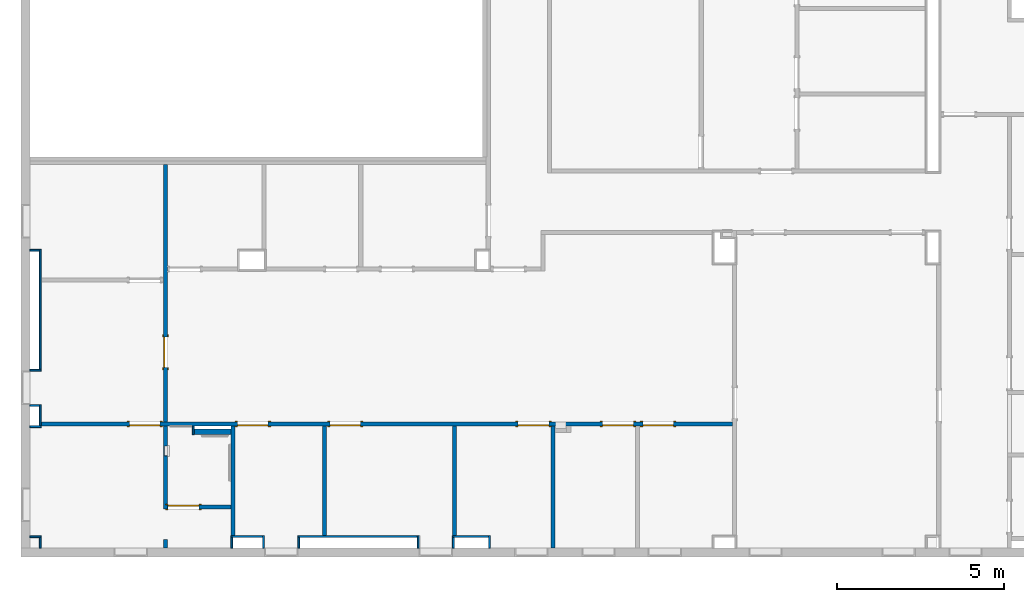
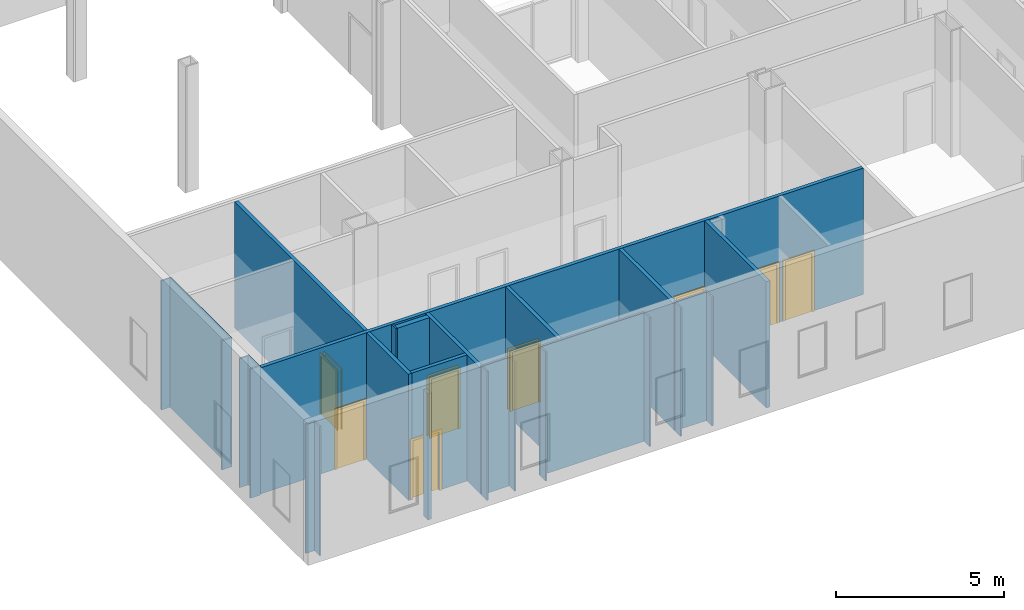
# One storey, part 6 of 47: 28 walls, 8 doors, 9 openings.
"""IFC2X3 building model written with IfcOpenShell, lengths in metres."""

from ifc_helpers import new_model, entity, si_unit, converted_unit, frame, frame_2d, origin, origin_2d_with_axis, place, context, project, spatial, polyline, rectangle, outline, extrude, source, transform, mapped, material, layer, layer_set, layer_usage, type_object, type_shapes, element, fill, save


model = new_model("IFC2X3")

# Units and contexts
model_context = context("Model", 3, precision=1e-09, world=origin())
plan_context = context("Plan", 3, precision=1e-09, world=origin())
ifc_project = project(units=[si_unit("LENGTHUNIT", "METRE"), si_unit("AREAUNIT", "SQUARE_METRE"), si_unit("VOLUMEUNIT", "CUBIC_METRE"), converted_unit("PLANEANGLEUNIT", "DEGREE", entity("IfcRatioMeasure", 0.01745329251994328), si_unit("PLANEANGLEUNIT", "RADIAN"), dimensions=[0, 0, 0, 0, 0, 0, 0]), si_unit("TIMEUNIT", "SECOND")], contexts=[model_context, plan_context])

# Site, building, storey
site_placement = place(None, origin())
site = spatial("IfcSite", under=ifc_project, at=site_placement, Name="Default", CompositionType="ELEMENT")
building_placement = place(site_placement, origin())
building = spatial("IfcBuilding", under=site, at=building_placement, CompositionType="ELEMENT")
storey_placement = place(building_placement, frame((0.0, 0.0, 4.570000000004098)))
storey = spatial("IfcBuildingStorey", under=building, at=storey_placement, Name="Second Floor", CompositionType="ELEMENT", Elevation=4.570000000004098)

# Wall, openings, doors
ifc_material_1 = material(Name="Plasterboard")
ifc_layer_1 = layer(ifc_material_1, 0.016)
ifc_material_2 = material(Name="Metal - Stud Layer")
ifc_layer_2 = layer(ifc_material_2, 0.092)
ifc_layer_3 = layer(ifc_material_1, 0.016)
ifc_layer_set_1 = layer_set([ifc_layer_1, ifc_layer_2, ifc_layer_3], Name="Basic Wall:Interior - Partition (92mm Stud)")
ifc_layer_usage_1 = layer_usage(ifc_layer_set_1, "AXIS2", "NEGATIVE", 0.062)
wall_1_placement = place(storey_placement, frame((-46.77000000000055, 13.64243871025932, 0.0)))
wall_1 = element("IfcWallStandardCase", 1, at=wall_1_placement, inside=storey, material=ifc_layer_usage_1, Name="Basic Wall:Interior - Partition (92mm Stud)", ObjectType="Basic Wall:Interior - Partition (92mm Stud)", context=model_context, shape_type="SweptSolid", body=[
    extrude(rectangle(XDim=20.70599999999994, YDim=0.1240000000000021, at=frame_2d((10.35299999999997, 0.0), x_axis=(-1.0, 0.0))), origin(), (0.0, 0.0, 1.0), 4.577999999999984),
])
opening_1_placement = place(wall_1_placement, frame((3.559999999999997, 0.06199999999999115, 0.0)))
opening_1 = element("IfcOpeningElement", 2, at=opening_1_placement, cuts=wall_1, Name="M_Single-Flush:0915 x 2134mm:0915 x 2134mm:1", ObjectType="Opening", context=model_context, shape_type="SweptSolid", body=[
    extrude(rectangle(XDim=0.9149999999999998, YDim=2.134, at=frame_2d((1.067, 0.4574999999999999), x_axis=(0.0, -1.0))), frame((0.0, 0.0, 0.0), z_axis=(0.0, -1.0, 0.0), x_axis=(0.0, 0.0, 1.0)), (0.0, 0.0, 1.0), 0.124),
])
opening_2_placement = place(wall_1_placement, frame((6.798999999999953, 0.06199999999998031, 0.0)))
opening_2 = element("IfcOpeningElement", 3, at=opening_2_placement, cuts=wall_1, Name="M_Single-Flush:0915 x 2134mm:0915 x 2134mm:1", ObjectType="Opening", context=model_context, shape_type="SweptSolid", body=[
    extrude(rectangle(XDim=0.9149999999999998, YDim=2.134, at=frame_2d((1.067, 0.4575), x_axis=(0.0, 1.0))), frame((0.0, 0.0, 0.0), z_axis=(0.0, -1.0, 0.0), x_axis=(0.0, 0.0, 1.0)), (0.0, 0.0, 1.0), 0.124),
])
opening_3_placement = place(wall_1_placement, frame((9.564999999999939, 0.06199999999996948, 0.0)))
opening_3 = element("IfcOpeningElement", 4, at=opening_3_placement, cuts=wall_1, Name="M_Single-Flush:0915 x 2134mm:0915 x 2134mm:1", ObjectType="Opening", context=model_context, shape_type="SweptSolid", body=[
    extrude(rectangle(XDim=0.9149999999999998, YDim=2.134, at=frame_2d((1.067, 0.4575), x_axis=(0.0, 1.0))), frame((0.0, 0.0, 0.0), z_axis=(0.0, -1.0, 0.0), x_axis=(0.0, 0.0, 1.0)), (0.0, 0.0, 1.0), 0.124),
])
opening_4_placement = place(wall_1_placement, frame((15.20100000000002, 0.06199999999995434, 0.0)))
opening_4 = element("IfcOpeningElement", 5, at=opening_4_placement, cuts=wall_1, Name="M_Single-Flush:0915 x 2134mm:0915 x 2134mm:1", ObjectType="Opening", context=model_context, shape_type="SweptSolid", body=[
    extrude(rectangle(XDim=0.9149999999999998, YDim=2.134, at=frame_2d((1.067, 0.4574999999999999), x_axis=(0.0, -1.0))), frame((0.0, 0.0, 0.0), z_axis=(0.0, -1.0, 0.0), x_axis=(0.0, 0.0, 1.0)), (0.0, 0.0, 1.0), 0.124),
])
opening_5_placement = place(wall_1_placement, frame((17.73100000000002, 0.06199999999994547, 0.0)))
opening_5 = element("IfcOpeningElement", 6, at=opening_5_placement, cuts=wall_1, Name="M_Single-Flush:0915 x 2134mm:0915 x 2134mm:1", ObjectType="Opening", context=model_context, shape_type="SweptSolid", body=[
    extrude(rectangle(XDim=0.9149999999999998, YDim=2.134, at=frame_2d((1.067, 0.4574999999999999), x_axis=(0.0, -1.0))), frame((0.0, 0.0, 0.0), z_axis=(0.0, -1.0, 0.0), x_axis=(0.0, 0.0, 1.0)), (0.0, 0.0, 1.0), 0.124),
])
opening_6_placement = place(wall_1_placement, frame((18.93000000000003, 0.06199999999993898, 0.0)))
opening_6 = element("IfcOpeningElement", 7, at=opening_6_placement, cuts=wall_1, Name="M_Single-Flush:0915 x 2134mm:0915 x 2134mm:1", ObjectType="Opening", context=model_context, shape_type="SweptSolid", body=[
    extrude(rectangle(XDim=0.9149999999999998, YDim=2.134, at=frame_2d((1.067, 0.4575), x_axis=(0.0, 1.0))), frame((0.0, 0.0, 0.0), z_axis=(0.0, -1.0, 0.0), x_axis=(0.0, 0.0, 1.0)), (0.0, 0.0, 1.0), 0.124),
])
door_style_1 = type_object("IfcDoorStyle", Name="0915 x 2134mm", ConstructionType="NOTDEFINED", OperationType="SINGLE_SWING_RIGHT", ParameterTakesPrecedence=False, Sizeable=False)
shared_shape_1 = source(origin(), model_context, "Body", "SweptSolid", [
    extrude(outline(polyline([(-0.5335, -1.123999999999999), (0.5334999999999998, -1.123999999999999), (0.5334999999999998, 1.086), (0.4574999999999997, 1.086), (0.4574999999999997, -1.048000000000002), (-0.4574999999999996, -1.048000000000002), (-0.4574999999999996, 1.086), (-0.5335, 1.086), (-0.5335, -1.123999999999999)])), frame((0.4575000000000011, 0.1239999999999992, 1.086), z_axis=(0.0, 1.0, 0.0), x_axis=(1.0, 0.0, 0.0)), (0.0, 0.0, 1.0), 0.02499999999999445),
    extrude(outline(polyline([(-1.123999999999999, -0.5334999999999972), (1.085999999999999, -0.5334999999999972), (1.085999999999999, -0.4575000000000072), (-1.048, -0.4575000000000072), (-1.048, 0.4575000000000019), (1.085999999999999, 0.4575000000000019), (1.085999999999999, 0.5335000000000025), (-1.123999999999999, 0.5335000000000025), (-1.123999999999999, -0.5334999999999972)])), frame((0.4575000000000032, -0.02500000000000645, 1.085999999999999), z_axis=(0.0, 1.0, 0.0), x_axis=(0.0, 0.0, -1.0)), (0.0, 0.0, 1.0), 0.02500000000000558),
    extrude(rectangle(XDim=0.051, YDim=0.9149999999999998, at=origin_2d_with_axis()), frame((0.4575000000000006, 0.09849999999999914, 0.0), z_axis=(0.0, 0.0, 1.0), x_axis=(0.0, 1.0, 0.0)), (0.0, 0.0, 1.0), 2.133999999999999),
])
type_shapes(door_style_1, [shared_shape_1])
door_1_placement = place(opening_2_placement, frame((0.0, 0.0, 0.0), z_axis=(0.0, 0.0, 1.0), x_axis=(-1.0, 0.0, 0.0)))
door_1 = element("IfcDoor", 8, at=door_1_placement, inside=storey, type_object=door_style_1, Name="M_Single-Flush:0915 x 2134mm:0915 x 2134mm", ObjectType="0915 x 2134mm", OverallHeight=2.134, OverallWidth=0.9149999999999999, context=model_context, shape_type="MappedRepresentation", body=[
    mapped(shared_shape_1, transform((0.0, 0.0, 0.0), scale=1.0)),
])
fill(opening_2, door_1)
door_2_placement = place(opening_3_placement, frame((0.0, 0.0, 0.0), z_axis=(0.0, 0.0, 1.0), x_axis=(-1.0, 0.0, 0.0)))
door_2 = element("IfcDoor", 9, at=door_2_placement, inside=storey, type_object=door_style_1, Name="M_Single-Flush:0915 x 2134mm:0915 x 2134mm", ObjectType="0915 x 2134mm", OverallHeight=2.134, OverallWidth=0.9149999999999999, context=model_context, shape_type="MappedRepresentation", body=[
    mapped(shared_shape_1, transform((0.0, 0.0, 0.0), scale=1.0)),
])
fill(opening_3, door_2)
door_3_placement = place(opening_6_placement, frame((0.0, 0.0, 0.0), z_axis=(0.0, 0.0, 1.0), x_axis=(-1.0, 0.0, 0.0)))
door_3 = element("IfcDoor", 10, at=door_3_placement, inside=storey, type_object=door_style_1, Name="M_Single-Flush:0915 x 2134mm:0915 x 2134mm", ObjectType="0915 x 2134mm", OverallHeight=2.134, OverallWidth=0.9149999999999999, context=model_context, shape_type="MappedRepresentation", body=[
    mapped(shared_shape_1, transform((0.0, 0.0, 0.0), scale=1.0)),
])
fill(opening_6, door_3)
door_style_2 = type_object("IfcDoorStyle", Name="0915 x 2134mm", ConstructionType="NOTDEFINED", OperationType="SINGLE_SWING_LEFT", ParameterTakesPrecedence=False, Sizeable=False)
shared_shape_2 = source(origin(), model_context, "Body", "SweptSolid", [
    extrude(outline(polyline([(-0.5335, -1.123999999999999), (0.5334999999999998, -1.123999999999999), (0.5334999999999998, 1.086), (0.4574999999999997, 1.086), (0.4574999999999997, -1.048000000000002), (-0.4574999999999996, -1.048000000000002), (-0.4574999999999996, 1.086), (-0.5335, 1.086), (-0.5335, -1.123999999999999)])), frame((0.4575000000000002, 0.1489999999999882, 1.086), z_axis=(0.0, -1.0, 0.0), x_axis=(-1.0, 0.0, 0.0)), (0.0, 0.0, 1.0), 0.02499999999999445),
    extrude(outline(polyline([(-1.123999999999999, -0.5334999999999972), (1.085999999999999, -0.5334999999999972), (1.085999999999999, -0.4575000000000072), (-1.048, -0.4575000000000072), (-1.048, 0.4575000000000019), (1.085999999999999, 0.4575000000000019), (1.085999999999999, 0.5335000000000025), (-1.123999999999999, 0.5335000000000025), (-1.123999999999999, -0.5334999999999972)])), frame((0.4574999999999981, 0.0, 1.085999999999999), z_axis=(0.0, -1.0, 0.0), x_axis=(0.0, 0.0, -1.0)), (0.0, 0.0, 1.0), 0.02500000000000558),
    extrude(rectangle(XDim=0.9149999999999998, YDim=0.051, at=origin_2d_with_axis()), frame((0.4575000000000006, 0.09849999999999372, 0.0)), (0.0, 0.0, 1.0), 2.133999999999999),
])
type_shapes(door_style_2, [shared_shape_2])
door_4_placement = place(opening_1_placement, frame((0.0, 0.0, 0.0), z_axis=(0.0, 0.0, 1.0), x_axis=(-1.0, 0.0, 0.0)))
door_4 = element("IfcDoor", 11, at=door_4_placement, inside=storey, type_object=door_style_2, Name="M_Single-Flush:0915 x 2134mm:0915 x 2134mm", ObjectType="0915 x 2134mm", OverallHeight=2.134, OverallWidth=0.9149999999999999, context=model_context, shape_type="MappedRepresentation", body=[
    mapped(shared_shape_2, transform((0.0, 0.0, 0.0), scale=1.0)),
])
fill(opening_1, door_4)
door_5_placement = place(opening_4_placement, frame((0.0, 0.0, 0.0), z_axis=(0.0, 0.0, 1.0), x_axis=(-1.0, 0.0, 0.0)))
door_5 = element("IfcDoor", 12, at=door_5_placement, inside=storey, type_object=door_style_2, Name="M_Single-Flush:0915 x 2134mm:0915 x 2134mm", ObjectType="0915 x 2134mm", OverallHeight=2.134, OverallWidth=0.9149999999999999, context=model_context, shape_type="MappedRepresentation", body=[
    mapped(shared_shape_2, transform((0.0, 0.0, 0.0), scale=1.0)),
])
fill(opening_4, door_5)
door_6_placement = place(opening_5_placement, frame((0.0, 0.0, 0.0), z_axis=(0.0, 0.0, 1.0), x_axis=(-1.0, 0.0, 0.0)))
door_6 = element("IfcDoor", 13, at=door_6_placement, inside=storey, type_object=door_style_2, Name="M_Single-Flush:0915 x 2134mm:0915 x 2134mm", ObjectType="0915 x 2134mm", OverallHeight=2.134, OverallWidth=0.9149999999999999, context=model_context, shape_type="MappedRepresentation", body=[
    mapped(shared_shape_2, transform((0.0, 0.0, 0.0), scale=1.0)),
])
fill(opening_5, door_6)

# Walls
ifc_layer_usage_2 = layer_usage(ifc_layer_set_1, "AXIS2", "NEGATIVE", 0.062)
wall_2_placement = place(storey_placement, frame((-31.44700000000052, 13.58043871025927, 0.0), z_axis=(0.0, 0.0, 1.0), x_axis=(0.0, -1.0, 0.0)))
element("IfcWallStandardCase", 14, at=wall_2_placement, inside=storey, material=ifc_layer_usage_2, Name="Basic Wall:Interior - Partition (92mm Stud)", ObjectType="Basic Wall:Interior - Partition (92mm Stud)", context=model_context, shape_type="SweptSolid", body=[
    extrude(rectangle(XDim=3.653438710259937, YDim=0.1239999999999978, at=frame_2d((1.826719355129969, 0.0), x_axis=(-1.0, 0.0))), origin(), (0.0, 0.0, 1.0), 4.577999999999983),
])
ifc_layer_usage_3 = layer_usage(ifc_layer_set_1, "AXIS2", "NEGATIVE", 0.062)
wall_3_placement = place(storey_placement, frame((-34.39204823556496, 13.58043871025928, 0.0), z_axis=(0.0, 0.0, 1.0), x_axis=(0.0, -1.0, 0.0)))
element("IfcWallStandardCase", 15, at=wall_3_placement, inside=storey, material=ifc_layer_usage_3, Name="Basic Wall:Interior - Partition (92mm Stud)", ObjectType="Basic Wall:Interior - Partition (92mm Stud)", context=model_context, shape_type="SweptSolid", body=[
    extrude(rectangle(XDim=3.276104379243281, YDim=0.1239999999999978, at=frame_2d((1.638052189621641, 0.0), x_axis=(-1.0, 0.0))), origin(), (0.0, 0.0, 1.0), 4.577999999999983),
])
ifc_layer_usage_4 = layer_usage(ifc_layer_set_1, "AXIS2", "NEGATIVE", 0.062)
wall_4_placement = place(storey_placement, frame((-38.28200000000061, 13.58043871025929, 0.0), z_axis=(0.0, 0.0, 1.0), x_axis=(0.0, -1.0, 0.0)))
element("IfcWallStandardCase", 16, at=wall_4_placement, inside=storey, material=ifc_layer_usage_4, Name="Basic Wall:Interior - Partition (92mm Stud)", ObjectType="Basic Wall:Interior - Partition (92mm Stud)", context=model_context, shape_type="SweptSolid", body=[
    extrude(rectangle(XDim=3.276104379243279, YDim=0.1239999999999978, at=frame_2d((1.63805218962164, 0.0), x_axis=(-1.0, 0.0))), origin(), (0.0, 0.0, 1.0), 4.577999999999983),
])
ifc_layer_usage_5 = layer_usage(ifc_layer_set_1, "AXIS2", "NEGATIVE", 0.062)
wall_5_placement = place(storey_placement, frame((-41.0280000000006, 10.30433433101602, 0.0), z_axis=(0.0, 0.0, 1.0), x_axis=(0.0, 1.0, 0.0)))
element("IfcWallStandardCase", 17, at=wall_5_placement, inside=storey, material=ifc_layer_usage_5, Name="Basic Wall:Interior - Partition (92mm Stud)", ObjectType="Basic Wall:Interior - Partition (92mm Stud)", context=model_context, shape_type="SweptSolid", body=[
    extrude(rectangle(XDim=3.276104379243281, YDim=0.1240000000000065, at=frame_2d((1.638052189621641, 0.0), x_axis=(-1.0, 0.0))), origin(), (0.0, 0.0, 1.0), 4.577999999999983),
])
ifc_layer_usage_6 = layer_usage(ifc_layer_set_1, "AXIS2", "NEGATIVE", 0.062)
wall_6_placement = place(storey_placement, frame((-43.04800000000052, 9.926999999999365, 0.0), z_axis=(0.0, 0.0, 1.0), x_axis=(0.0, 1.0, 0.0)))
element("IfcWallStandardCase", 18, at=wall_6_placement, inside=storey, material=ifc_layer_usage_6, Name="Basic Wall:Interior - Partition (92mm Stud)", ObjectType="Basic Wall:Interior - Partition (92mm Stud)", context=model_context, shape_type="SweptSolid", body=[
    extrude(rectangle(XDim=0.2524387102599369, YDim=0.1240000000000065, at=frame_2d((0.1262193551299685, 0.0), x_axis=(-1.0, 0.0))), origin(), (0.0, 0.0, 1.0), 4.577999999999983),
])

# Wall, opening, door
ifc_layer_usage_7 = layer_usage(ifc_layer_set_1, "AXIS2", "NEGATIVE", 0.062)
wall_7_placement = place(storey_placement, frame((-41.09000000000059, 11.1564387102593, 0.0), z_axis=(0.0, 0.0, 1.0), x_axis=(-1.0, 0.0, 0.0)))
wall_7 = element("IfcWallStandardCase", 19, at=wall_7_placement, inside=storey, material=ifc_layer_usage_7, Name="Basic Wall:Interior - Partition (92mm Stud)", ObjectType="Basic Wall:Interior - Partition (92mm Stud)", context=model_context, shape_type="SweptSolid", body=[
    extrude(rectangle(XDim=1.895999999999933, YDim=0.1240000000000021, at=frame_2d((0.9479999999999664, 0.0), x_axis=(-1.0, 0.0))), origin(), (0.0, 0.0, 1.0), 4.577999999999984),
])
opening_7_placement = place(wall_7_placement, frame((1.875999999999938, 0.06199999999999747, 0.0)))
opening_7 = element("IfcOpeningElement", 20, at=opening_7_placement, cuts=wall_7, Name="M_Single-Flush:0915 x 2134mm:0915 x 2134mm:1", ObjectType="Opening", context=model_context, shape_type="SweptSolid", body=[
    extrude(rectangle(XDim=0.9149999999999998, YDim=2.134, at=frame_2d((1.067, 0.4575000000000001), x_axis=(0.0, -1.0))), frame((0.0, 0.0, 0.0), z_axis=(0.0, -1.0, 0.0), x_axis=(0.0, 0.0, 1.0)), (0.0, 0.0, 1.0), 0.124),
])
door_7_placement = place(opening_7_placement, frame((0.0, 0.0, 0.0), z_axis=(0.0, 0.0, 1.0), x_axis=(-1.0, 0.0, 0.0)))
door_7 = element("IfcDoor", 21, at=door_7_placement, inside=storey, type_object=door_style_2, Name="M_Single-Flush:0915 x 2134mm:0915 x 2134mm", ObjectType="0915 x 2134mm", OverallHeight=2.134, OverallWidth=0.9149999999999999, context=model_context, shape_type="MappedRepresentation", body=[
    mapped(shared_shape_2, transform((0.0, 0.0, 0.0), scale=1.0)),
])
fill(opening_7, door_7)

# Walls
ifc_layer_4 = layer(ifc_material_2, 0.152)
ifc_layer_5 = layer(ifc_material_1, 0.016)
ifc_layer_set_2 = layer_set([ifc_layer_4, ifc_layer_5], Name="Basic Wall:Interior - Furring (152 mm Stud)")
ifc_layer_usage_8 = layer_usage(ifc_layer_set_2, "AXIS2", "POSITIVE", -0.08399999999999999)
wall_8_placement = place(storey_placement, frame((-41.09000000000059, 13.40843871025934, 0.0), z_axis=(0.0, 0.0, 1.0), x_axis=(-1.0, 0.0, 0.0)))
element("IfcWallStandardCase", 22, at=wall_8_placement, inside=storey, material=ifc_layer_usage_8, Name="Basic Wall:Interior - Furring (152 mm Stud)", ObjectType="Basic Wall:Interior - Furring (152 mm Stud)", context=model_context, shape_type="SweptSolid", body=[
    extrude(rectangle(XDim=1.099303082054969, YDim=0.1680000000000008, at=frame_2d((0.5496515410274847, 0.0), x_axis=(-1.0, 0.0))), origin(), (0.0, 0.0, 1.0), 4.577999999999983),
])
ifc_layer_6 = layer(ifc_material_2, 0.038)
ifc_layer_7 = layer(ifc_material_1, 0.016)
ifc_layer_set_3 = layer_set([ifc_layer_6, ifc_layer_7], Name="Basic Wall:Interior - Furring (38 mm Stud)")
ifc_layer_usage_9 = layer_usage(ifc_layer_set_3, "AXIS2", "POSITIVE", -0.027)
wall_9_placement = place(storey_placement, frame((-42.21630308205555, 13.32443871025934, 0.0), z_axis=(0.0, 0.0, 1.0), x_axis=(0.0, 1.0, 0.0)))
element("IfcWallStandardCase", 23, at=wall_9_placement, inside=storey, material=ifc_layer_usage_9, Name="Basic Wall:Interior - Furring (38 mm Stud)", ObjectType="Basic Wall:Interior - Furring (38 mm Stud)", context=model_context, shape_type="SweptSolid", body=[
    extrude(rectangle(XDim=0.2559999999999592, YDim=0.05400000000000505, at=frame_2d((0.1279999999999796, 0.0), x_axis=(-1.0, 0.0))), origin(), (0.0, 0.0, 1.0), 4.577999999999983),
])

# Wall, opening
ifc_layer_usage_10 = layer_usage(ifc_layer_set_1, "AXIS2", "NEGATIVE", 0.062)
wall_10_placement = place(storey_placement, frame((-43.04800000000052, 11.09443871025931, 0.0), z_axis=(0.0, 0.0, 1.0), x_axis=(0.0, 1.0, 0.0)))
wall_10 = element("IfcWallStandardCase", 24, at=wall_10_placement, inside=storey, material=ifc_layer_usage_10, Name="Basic Wall:Interior - Partition (92mm Stud)", ObjectType="Basic Wall:Interior - Partition (92mm Stud)", context=model_context, shape_type="SweptSolid", body=[
    extrude(rectangle(XDim=2.485999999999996, YDim=0.1240000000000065, at=frame_2d((1.242999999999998, 0.0), x_axis=(-1.0, 0.0))), origin(), (0.0, 0.0, 1.0), 4.577999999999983),
])
opening_8_placement = place(wall_10_placement, origin())
element("IfcOpeningElement", 25, at=opening_8_placement, cuts=wall_10, ObjectType="Opening", context=model_context, shape_type="SweptSolid", body=[
    extrude(rectangle(XDim=1.362075, YDim=0.2984499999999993, at=origin_2d_with_axis()), frame((1.744900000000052, -0.1255000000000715, 1.041399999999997), z_axis=(0.0, 1.0, 0.0), x_axis=(0.0, 0.0, -1.0)), (0.0, 0.0, 1.0), 0.15240000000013),
])

# Wall, opening, door
ifc_layer_usage_11 = layer_usage(ifc_layer_set_1, "AXIS2", "NEGATIVE", 0.062)
wall_11_placement = place(storey_placement, frame((-43.04800000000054, 13.7044387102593, 0.0), z_axis=(0.0, 0.0, 1.0), x_axis=(0.0, 1.0, 0.0)))
wall_11 = element("IfcWallStandardCase", 26, at=wall_11_placement, inside=storey, material=ifc_layer_usage_11, Name="Basic Wall:Interior - Partition (92mm Stud)", ObjectType="Basic Wall:Interior - Partition (92mm Stud)", context=model_context, shape_type="SweptSolid", body=[
    extrude(rectangle(XDim=7.710000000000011, YDim=0.1240000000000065, at=frame_2d((3.855000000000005, 0.0), x_axis=(-1.0, 0.0))), origin(), (0.0, 0.0, 1.0), 4.577999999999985),
])
opening_9_placement = place(wall_11_placement, frame((1.635499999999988, -0.06200000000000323, 0.0)))
opening_9 = element("IfcOpeningElement", 27, at=opening_9_placement, cuts=wall_11, Name="M_Single-Flush:0915 x 2134mm:0915 x 2134mm:1", ObjectType="Opening", context=model_context, shape_type="SweptSolid", body=[
    extrude(rectangle(XDim=0.9149999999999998, YDim=2.134, at=frame_2d((1.067, 0.4575), x_axis=(0.0, 1.0))), frame((0.0, 0.0, 0.0), z_axis=(0.0, 1.0, 0.0), x_axis=(0.0, 0.0, 1.0)), (0.0, 0.0, 1.0), 0.124),
])
door_8_placement = place(opening_9_placement, origin())
door_8 = element("IfcDoor", 28, at=door_8_placement, inside=storey, type_object=door_style_1, Name="M_Single-Flush:0915 x 2134mm:0915 x 2134mm", ObjectType="0915 x 2134mm", OverallHeight=2.134, OverallWidth=0.9149999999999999, context=model_context, shape_type="MappedRepresentation", body=[
    mapped(shared_shape_1, transform((0.0, 0.0, 0.0), scale=1.0)),
])
fill(opening_9, door_8)

# Walls
ifc_layer_usage_12 = layer_usage(ifc_layer_set_3, "AXIS2", "NEGATIVE", 0.027)
wall_12_placement = place(storey_placement, frame((-33.3470000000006, 9.926999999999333, 0.0), z_axis=(0.0, 0.0, 1.0), x_axis=(0.0, 1.0, 0.0)))
element("IfcWallStandardCase", 29, at=wall_12_placement, inside=storey, material=ifc_layer_usage_12, Name="Basic Wall:Interior - Furring (38 mm Stud)", ObjectType="Basic Wall:Interior - Furring (38 mm Stud)", context=model_context, shape_type="SweptSolid", body=[
    extrude(rectangle(XDim=0.377334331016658, YDim=0.05399999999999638, at=frame_2d((0.188667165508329, 0.0), x_axis=(-1.0, 0.0))), origin(), (0.0, 0.0, 1.0), 4.679999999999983),
])
ifc_layer_usage_13 = layer_usage(ifc_layer_set_3, "AXIS2", "NEGATIVE", 0.027)
wall_13_placement = place(storey_placement, frame((-33.3740000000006, 10.27733433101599, 0.0), z_axis=(0.0, 0.0, 1.0), x_axis=(-1.0, 0.0, 0.0)))
element("IfcWallStandardCase", 30, at=wall_13_placement, inside=storey, material=ifc_layer_usage_13, Name="Basic Wall:Interior - Furring (38 mm Stud)", ObjectType="Basic Wall:Interior - Furring (38 mm Stud)", context=model_context, shape_type="SweptSolid", body=[
    extrude(rectangle(XDim=1.080048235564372, YDim=0.05400000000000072, at=frame_2d((0.540024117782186, 0.0), x_axis=(-1.0, 0.0))), origin(), (0.0, 0.0, 1.0), 4.679999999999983),
])
ifc_layer_usage_14 = layer_usage(ifc_layer_set_3, "AXIS2", "NEGATIVE", 0.027)
wall_14_placement = place(storey_placement, frame((-34.42704823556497, 10.25033433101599, 0.0), z_axis=(0.0, 0.0, 1.0), x_axis=(0.0, -1.0, 0.0)))
element("IfcWallStandardCase", 31, at=wall_14_placement, inside=storey, material=ifc_layer_usage_14, Name="Basic Wall:Interior - Furring (38 mm Stud)", ObjectType="Basic Wall:Interior - Furring (38 mm Stud)", context=model_context, shape_type="SweptSolid", body=[
    extrude(rectangle(XDim=0.3233343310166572, YDim=0.05399999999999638, at=frame_2d((0.1616671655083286, 0.0), x_axis=(-1.0, 0.0))), origin(), (0.0, 0.0, 1.0), 4.679999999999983),
])
ifc_layer_usage_15 = layer_usage(ifc_layer_set_3, "AXIS2", "NEGATIVE", 0.027)
wall_15_placement = place(storey_placement, frame((-35.48104823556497, 9.926999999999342, 0.0), z_axis=(0.0, 0.0, 1.0), x_axis=(0.0, 1.0, 0.0)))
element("IfcWallStandardCase", 32, at=wall_15_placement, inside=storey, material=ifc_layer_usage_15, Name="Basic Wall:Interior - Furring (38 mm Stud)", ObjectType="Basic Wall:Interior - Furring (38 mm Stud)", context=model_context, shape_type="SweptSolid", body=[
    extrude(rectangle(XDim=0.377334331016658, YDim=0.05399999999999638, at=frame_2d((0.188667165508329, 0.0), x_axis=(-1.0, 0.0))), origin(), (0.0, 0.0, 1.0), 4.679999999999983),
])
ifc_layer_usage_16 = layer_usage(ifc_layer_set_3, "AXIS2", "NEGATIVE", 0.027)
wall_16_placement = place(storey_placement, frame((-35.50804823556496, 10.277334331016, 0.0), z_axis=(0.0, 0.0, 1.0), x_axis=(-1.0, 0.0, 0.0)))
element("IfcWallStandardCase", 33, at=wall_16_placement, inside=storey, material=ifc_layer_usage_16, Name="Basic Wall:Interior - Furring (38 mm Stud)", ObjectType="Basic Wall:Interior - Furring (38 mm Stud)", context=model_context, shape_type="SweptSolid", body=[
    extrude(rectangle(XDim=3.575254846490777, YDim=0.05400000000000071, at=frame_2d((1.787627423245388, 0.0), x_axis=(-1.0, 0.0))), origin(), (0.0, 0.0, 1.0), 4.679999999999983),
])
ifc_layer_usage_17 = layer_usage(ifc_layer_set_3, "AXIS2", "NEGATIVE", 0.027)
wall_17_placement = place(storey_placement, frame((-39.05630308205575, 10.25033433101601, 0.0), z_axis=(0.0, 0.0, 1.0), x_axis=(0.0, -1.0, 0.0)))
element("IfcWallStandardCase", 34, at=wall_17_placement, inside=storey, material=ifc_layer_usage_17, Name="Basic Wall:Interior - Furring (38 mm Stud)", ObjectType="Basic Wall:Interior - Furring (38 mm Stud)", context=model_context, shape_type="SweptSolid", body=[
    extrude(rectangle(XDim=0.3233343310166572, YDim=0.05400000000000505, at=frame_2d((0.1616671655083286, 0.0), x_axis=(-1.0, 0.0))), origin(), (0.0, 0.0, 1.0), 4.679999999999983),
])
ifc_layer_usage_18 = layer_usage(ifc_layer_set_3, "AXIS2", "NEGATIVE", 0.027)
wall_18_placement = place(storey_placement, frame((-40.11030308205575, 9.926999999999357, 0.0), z_axis=(0.0, 0.0, 1.0), x_axis=(0.0, 1.0, 0.0)))
element("IfcWallStandardCase", 35, at=wall_18_placement, inside=storey, material=ifc_layer_usage_18, Name="Basic Wall:Interior - Furring (38 mm Stud)", ObjectType="Basic Wall:Interior - Furring (38 mm Stud)", context=model_context, shape_type="SweptSolid", body=[
    extrude(rectangle(XDim=0.3773343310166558, YDim=0.05400000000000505, at=frame_2d((0.1886671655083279, 0.0), x_axis=(-1.0, 0.0))), origin(), (0.0, 0.0, 1.0), 4.679999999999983),
])
ifc_layer_usage_19 = layer_usage(ifc_layer_set_3, "AXIS2", "NEGATIVE", 0.027)
wall_19_placement = place(storey_placement, frame((-40.13730308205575, 10.27733433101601, 0.0), z_axis=(0.0, 0.0, 1.0), x_axis=(-1.0, 0.0, 0.0)))
element("IfcWallStandardCase", 36, at=wall_19_placement, inside=storey, material=ifc_layer_usage_19, Name="Basic Wall:Interior - Furring (38 mm Stud)", ObjectType="Basic Wall:Interior - Furring (38 mm Stud)", context=model_context, shape_type="SweptSolid", body=[
    extrude(rectangle(XDim=0.9526969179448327, YDim=0.05400000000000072, at=frame_2d((0.4763484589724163, 0.0), x_axis=(-1.0, 0.0))), origin(), (0.0, 0.0, 1.0), 4.679999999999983),
])
ifc_layer_usage_20 = layer_usage(ifc_layer_set_3, "AXIS2", "NEGATIVE", 0.027)
wall_20_placement = place(storey_placement, frame((-41.06300000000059, 10.25033433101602, 0.0), z_axis=(0.0, 0.0, 1.0), x_axis=(0.0, -1.0, 0.0)))
element("IfcWallStandardCase", 37, at=wall_20_placement, inside=storey, material=ifc_layer_usage_20, Name="Basic Wall:Interior - Furring (38 mm Stud)", ObjectType="Basic Wall:Interior - Furring (38 mm Stud)", context=model_context, shape_type="SweptSolid", body=[
    extrude(rectangle(XDim=0.3233343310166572, YDim=0.05400000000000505, at=frame_2d((0.1616671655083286, 0.0), x_axis=(-1.0, 0.0))), origin(), (0.0, 0.0, 1.0), 4.679999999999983),
])
ifc_layer_usage_21 = layer_usage(ifc_layer_set_3, "AXIS2", "POSITIVE", -0.027)
wall_21_placement = place(storey_placement, frame((-47.11300000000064, 10.26743871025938, 0.0)))
element("IfcWallStandardCase", 38, at=wall_21_placement, inside=storey, material=ifc_layer_usage_21, Name="Basic Wall:Interior - Furring (38 mm Stud)", ObjectType="Basic Wall:Interior - Furring (38 mm Stud)", context=model_context, shape_type="SweptSolid", body=[
    extrude(rectangle(XDim=0.3430000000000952, YDim=0.05400000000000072, at=frame_2d((0.1715000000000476, 0.0), x_axis=(-1.0, 0.0))), origin(), (0.0, 0.0, 1.0), 4.679999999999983),
])
ifc_layer_usage_22 = layer_usage(ifc_layer_set_3, "AXIS2", "POSITIVE", -0.027)
wall_22_placement = place(storey_placement, frame((-46.79700000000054, 10.24043871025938, 0.0), z_axis=(0.0, 0.0, 1.0), x_axis=(0.0, -1.0, 0.0)))
element("IfcWallStandardCase", 39, at=wall_22_placement, inside=storey, material=ifc_layer_usage_22, Name="Basic Wall:Interior - Furring (38 mm Stud)", ObjectType="Basic Wall:Interior - Furring (38 mm Stud)", context=model_context, shape_type="SweptSolid", body=[
    extrude(rectangle(XDim=0.3134387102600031, YDim=0.05400000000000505, at=frame_2d((0.1567193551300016, 0.0), x_axis=(-1.0, 0.0))), origin(), (0.0, 0.0, 1.0), 4.679999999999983),
])
ifc_layer_usage_23 = layer_usage(ifc_layer_set_3, "AXIS2", "NEGATIVE", 0.027)
wall_23_placement = place(storey_placement, frame((-47.11300000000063, 13.5654387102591, 0.0)))
element("IfcWallStandardCase", 40, at=wall_23_placement, inside=storey, material=ifc_layer_usage_23, Name="Basic Wall:Interior - Furring (38 mm Stud)", ObjectType="Basic Wall:Interior - Furring (38 mm Stud)", context=model_context, shape_type="SweptSolid", body=[
    extrude(rectangle(XDim=0.343000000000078, YDim=0.05400000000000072, at=frame_2d((0.171500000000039, 0.0), x_axis=(-1.0, 0.0))), origin(), (0.0, 0.0, 1.0), 4.679999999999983),
])
ifc_layer_usage_24 = layer_usage(ifc_layer_set_3, "AXIS2", "NEGATIVE", 0.027)
wall_24_placement = place(storey_placement, frame((-46.79700000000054, 13.5924387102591, 0.0), z_axis=(0.0, 0.0, 1.0), x_axis=(0.0, 1.0, 0.0)))
element("IfcWallStandardCase", 41, at=wall_24_placement, inside=storey, material=ifc_layer_usage_24, Name="Basic Wall:Interior - Furring (38 mm Stud)", ObjectType="Basic Wall:Interior - Furring (38 mm Stud)", context=model_context, shape_type="SweptSolid", body=[
    extrude(rectangle(XDim=0.6349151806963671, YDim=0.05400000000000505, at=frame_2d((0.3174575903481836, 0.0), x_axis=(-1.0, 0.0))), origin(), (0.0, 0.0, 1.0), 4.679999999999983),
])
ifc_layer_usage_25 = layer_usage(ifc_layer_set_3, "AXIS2", "NEGATIVE", 0.027)
wall_25_placement = place(storey_placement, frame((-46.82400000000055, 14.20035389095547, 0.0), z_axis=(0.0, 0.0, 1.0), x_axis=(-1.0, 0.0, 0.0)))
element("IfcWallStandardCase", 42, at=wall_25_placement, inside=storey, material=ifc_layer_usage_25, Name="Basic Wall:Interior - Furring (38 mm Stud)", ObjectType="Basic Wall:Interior - Furring (38 mm Stud)", context=model_context, shape_type="SweptSolid", body=[
    extrude(rectangle(XDim=0.2890000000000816, YDim=0.05400000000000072, at=frame_2d((0.1445000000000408, 0.0), x_axis=(-1.0, 0.0))), origin(), (0.0, 0.0, 1.0), 4.679999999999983),
])
ifc_layer_usage_26 = layer_usage(ifc_layer_set_3, "AXIS2", "NEGATIVE", 0.027)
wall_26_placement = place(storey_placement, frame((-47.11300000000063, 15.25435389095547, 0.0)))
element("IfcWallStandardCase", 43, at=wall_26_placement, inside=storey, material=ifc_layer_usage_26, Name="Basic Wall:Interior - Furring (38 mm Stud)", ObjectType="Basic Wall:Interior - Furring (38 mm Stud)", context=model_context, shape_type="SweptSolid", body=[
    extrude(rectangle(XDim=0.3430000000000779, YDim=0.05400000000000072, at=frame_2d((0.171500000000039, 0.0), x_axis=(-1.0, 0.0))), origin(), (0.0, 0.0, 1.0), 4.679999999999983),
])
ifc_layer_usage_27 = layer_usage(ifc_layer_set_3, "AXIS2", "NEGATIVE", 0.027)
wall_27_placement = place(storey_placement, frame((-46.79700000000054, 15.28135389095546, 0.0), z_axis=(0.0, 0.0, 1.0), x_axis=(0.0, 1.0, 0.0)))
element("IfcWallStandardCase", 44, at=wall_27_placement, inside=storey, material=ifc_layer_usage_27, Name="Basic Wall:Interior - Furring (38 mm Stud)", ObjectType="Basic Wall:Interior - Furring (38 mm Stud)", context=model_context, shape_type="SweptSolid", body=[
    extrude(rectangle(XDim=3.593084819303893, YDim=0.05400000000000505, at=frame_2d((1.796542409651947, 0.0), x_axis=(-1.0, 0.0))), origin(), (0.0, 0.0, 1.0), 4.679999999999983),
])
ifc_layer_usage_28 = layer_usage(ifc_layer_set_3, "AXIS2", "NEGATIVE", 0.027)
wall_28_placement = place(storey_placement, frame((-46.82400000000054, 18.84743871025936, 0.0), z_axis=(0.0, 0.0, 1.0), x_axis=(-1.0, 0.0, 0.0)))
element("IfcWallStandardCase", 45, at=wall_28_placement, inside=storey, material=ifc_layer_usage_28, Name="Basic Wall:Interior - Furring (38 mm Stud)", ObjectType="Basic Wall:Interior - Furring (38 mm Stud)", context=model_context, shape_type="SweptSolid", body=[
    extrude(rectangle(XDim=0.2890000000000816, YDim=0.05400000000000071, at=frame_2d((0.1445000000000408, 0.0), x_axis=(-1.0, 0.0))), origin(), (0.0, 0.0, 1.0), 4.679999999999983),
])

save(model, "model.ifc")
